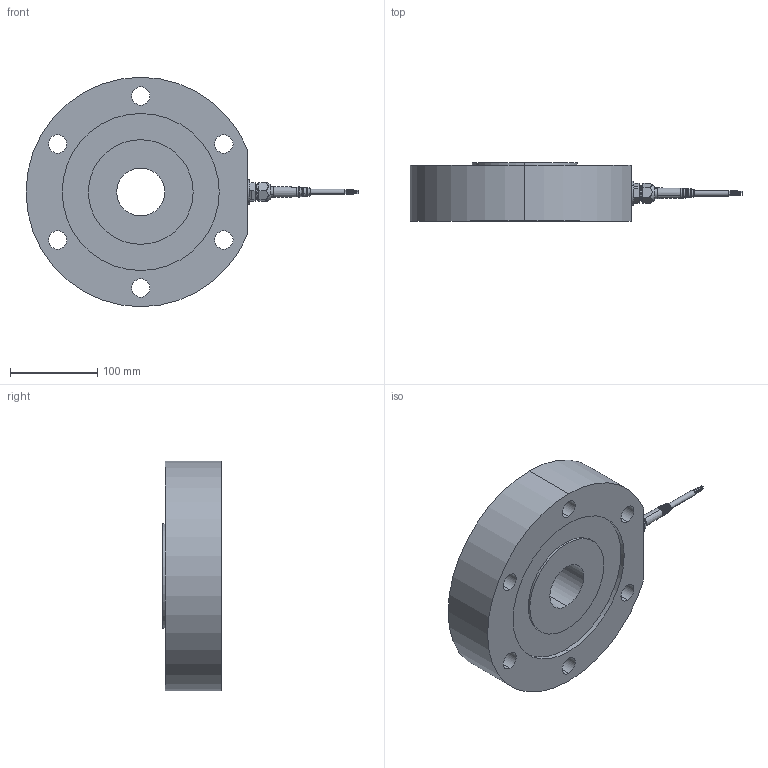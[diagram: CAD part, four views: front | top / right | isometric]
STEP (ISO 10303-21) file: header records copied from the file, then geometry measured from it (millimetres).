
FILE_DESCRIPTION (( 'STEP AP214' ), '1' );
FILE_NAME ('CLC-1 2 MN Load Cell.STEP', '2021-06-17T06:38:16', ( '' ), ( '' ), 'SwSTEP 2.0', 'SolidWorks 2021', '' );
FILE_SCHEMA (( 'AUTOMOTIVE_DESIGN' ));
Length unit declared in the file: millimetre
Products named in the file (6): Pg9 - 1009.52 6_2_14; 601013r1; 401647r2; CLC-1 2 MN Load Cell; M26x1.5 - Pg9 - 6369829; Standardkabel 4-Cond PVC
Assembly tree (6 placements, depth 2):
  CLC-1 2 MN Load Cell
    401647r2
    601013r1  x2
    M26x1.5 - Pg9 - 6369829
    Pg9 - 1009.52 6_2_14
    Standardkabel 4-Cond PVC
Bounding box: 380.5 x 67 x 263 mm (x, y, z)
Volume: 3038601.1 mm3; surface area: 269612.2 mm2
Topology: 6 solids, 9 shells, 228 faces, 528 edges, 339 vertices
Faces by surface type: cylinder 102, plane 55, cone 45, bspline 16, torus 10
Entity records: 11612 total; most frequent: CARTESIAN_POINT 5484, DIRECTION 1080, ORIENTED_EDGE 1028, EDGE_CURVE 514, AXIS2_PLACEMENT_3D 466, VERTEX_POINT 331, EDGE_LOOP 271, CIRCLE 251
